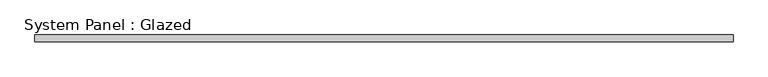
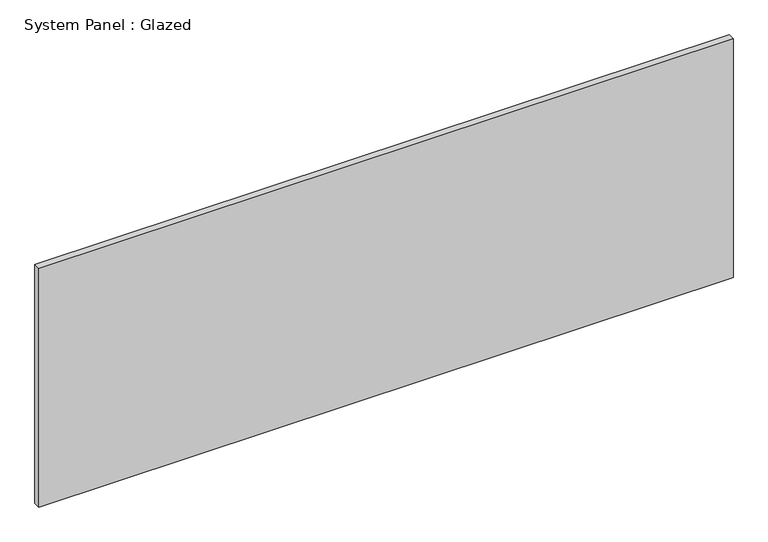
"""IFC4 building model written with IfcOpenShell, lengths in millimetres: plate geometry, System Panel : Glazed."""

from ifc_helpers import new_model, si_unit, origin, origin_with_axes, place, context, project, spatial, polyline, outline, extrude, source, transform, mapped, element, save


def system_panel_glazed_b1764f6f(model_context):
    return source(origin(), model_context, "Body", "SweptSolid", [
        extrude(outline(polyline([(1237.5, 24.5), (-1237.5, 24.5), (-1237.5, 49.5), (1237.5, 49.5), (1237.5, 24.5)])), origin_with_axes(), (0.0, 0.0, 1.0), 900.0),
    ])


if __name__ == "__main__":
    model = new_model("IFC4")
    model_context = context("Model", 3, world=origin())
    ifc_project = project(units=[si_unit("LENGTHUNIT", "METRE", prefix="MILLI")], contexts=[model_context])
    site = spatial("IfcSite", under=ifc_project)
    building = spatial("IfcBuilding", under=site)
    placement = place(None, origin())
    system_panel_glazed_shape = system_panel_glazed_b1764f6f(model_context)
    element("IfcPlate", 1, ObjectType="System Panel : Glazed", at=placement, inside=building, context=model_context, shape_type="MappedRepresentation", body=[
        mapped(system_panel_glazed_shape, transform((0.0, 0.0, 0.0), x_axis=(1.0, 0.0, 0.0), y_axis=(0.0, 1.0, 0.0), z_axis=(0.0, 0.0, 1.0))),
    ])
    save(model, "model.ifc")
